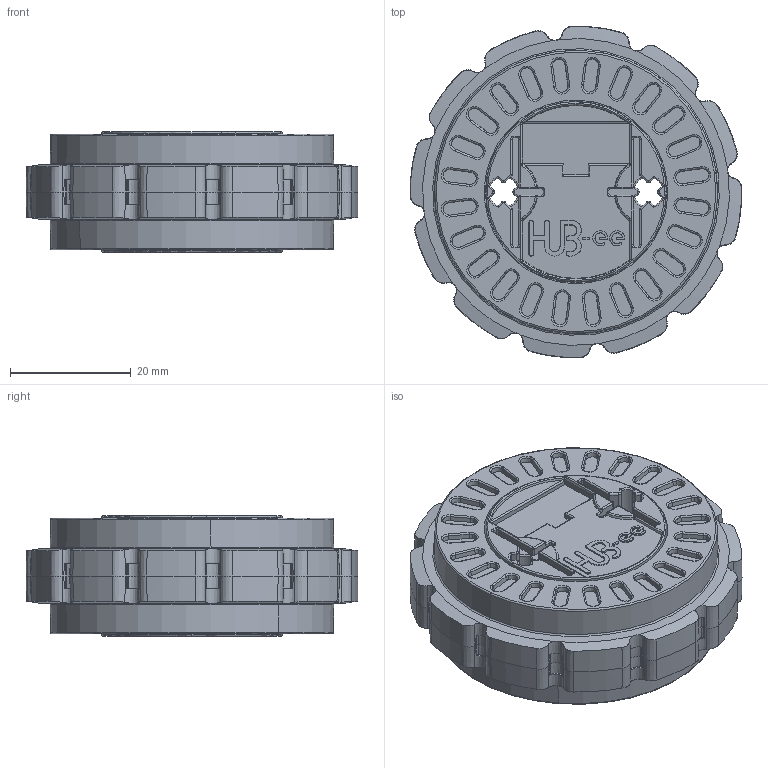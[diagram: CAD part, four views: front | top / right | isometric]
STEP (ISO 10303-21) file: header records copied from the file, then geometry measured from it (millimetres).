
FILE_DESCRIPTION (( 'STEP AP203' ), '1' );
FILE_NAME ('HUBee HUB.STEP', '2013-02-22T16:42:34', ( 'tom' ), ( '' ), 'SwSTEP 2.0', 'SolidWorks 2011', '' );
FILE_SCHEMA (( 'CONFIG_CONTROL_DESIGN' ));
Length unit declared in the file: millimetre
Products named in the file (3): HUBee HUB; Hubee Rim_OuterShell PCB Side; HUBee Core
Assembly tree (3 placements, depth 2):
  HUBee HUB
    Hubee Rim_OuterShell PCB Side  x2
    HUBee Core
Bounding box: 54.99 x 54.99 x 20 mm (x, y, z)
Volume: 30201.6 mm3; surface area: 18446.8 mm2
Topology: 3 solids, 3 shells, 1612 faces, 4094 edges, 2524 vertices
Faces by surface type: cone 490, plane 428, torus 302, cylinder 272, bspline 92, sphere 28
Entity records: 34746 total; most frequent: CARTESIAN_POINT 8299, DIRECTION 5653, ORIENTED_EDGE 5518, EDGE_CURVE 2759, AXIS2_PLACEMENT_3D 2323, VERTEX_POINT 1705, CIRCLE 1290, EDGE_LOOP 1138
